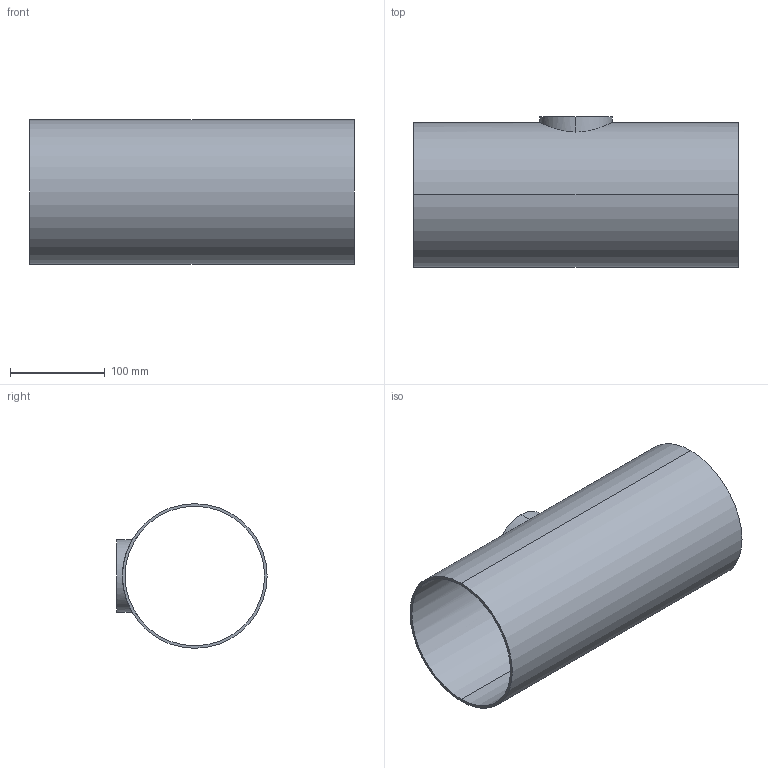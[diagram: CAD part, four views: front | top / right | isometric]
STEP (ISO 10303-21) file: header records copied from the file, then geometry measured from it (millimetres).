
FILE_DESCRIPTION (( 'STEP AP214' ), '1' );
FILE_NAME ('TEG7RS6L6.0x3.0-...STEP', '2016-05-24T11:29:15', ( 'eran' ), ( '' ), 'SwSTEP 2.0', 'SolidWorks 2016', '' );
FILE_SCHEMA (( 'AUTOMOTIVE_DESIGN' ));
Length unit declared in the file: millimetre
Products named in the file (1): TEG7RS6L6.0x3.0-..
Bounding box: 342 x 158.3 x 152.4 mm (x, y, z)
Volume: 437512.9 mm3; surface area: 321175.8 mm2
Topology: 1 solids, 1 shells, 11 faces, 24 edges, 16 vertices
Faces by surface type: cylinder 8, plane 3
Entity records: 624 total; most frequent: CARTESIAN_POINT 332, DIRECTION 56, ORIENTED_EDGE 48, EDGE_CURVE 24, AXIS2_PLACEMENT_3D 24, EDGE_LOOP 16, VERTEX_POINT 16, CIRCLE 12
